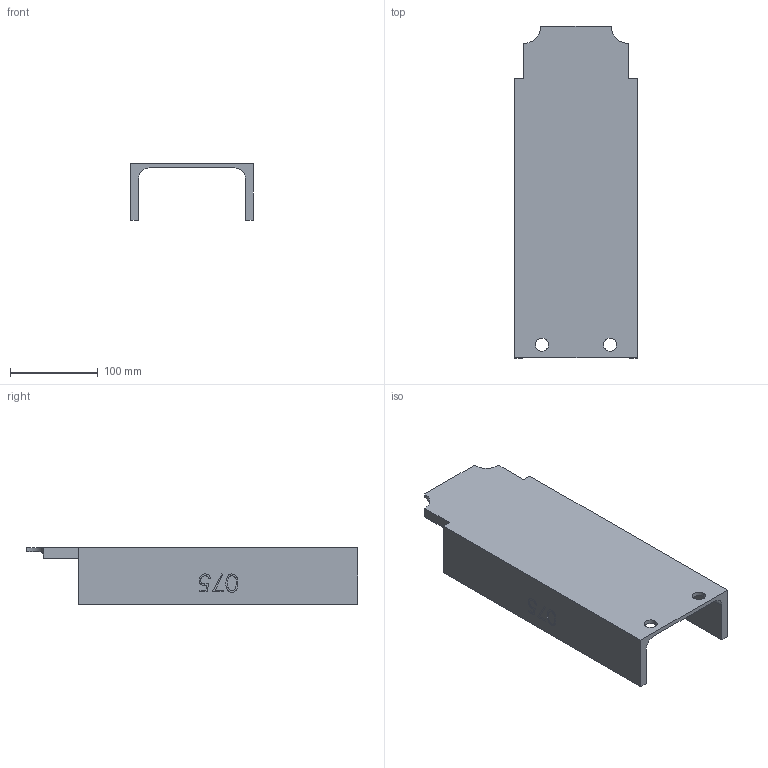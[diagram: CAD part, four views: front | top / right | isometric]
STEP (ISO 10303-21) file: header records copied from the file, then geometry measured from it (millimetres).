
FILE_DESCRIPTION (( 'STEP AP214' ), '1' );
FILE_NAME ('CCJ029-REP.075 - PATTE SUPPORT DEFENSE 1M.STEP', '2025-04-16T13:13:44', ( '' ), ( '' ), 'SwSTEP 2.0', 'SolidWorks 2021', '' );
FILE_SCHEMA (( 'AUTOMOTIVE_DESIGN' ));
Length unit declared in the file: millimetre
Products named in the file (1): CCJ029-REP.075 - PATTE SUPPORT DEFENSE 1M
Bounding box: 140 x 379 x 65 mm (x, y, z)
Volume: 620385.4 mm3; surface area: 183727.2 mm2
Topology: 1 solids, 1 shells, 55 faces, 147 edges, 98 vertices
Faces by surface type: plane 30, bspline 17, cylinder 8
Entity records: 2957 total; most frequent: CARTESIAN_POINT 1642, ORIENTED_EDGE 294, DIRECTION 205, EDGE_CURVE 147, VERTEX_POINT 98, VECTOR 95, LINE 95, EDGE_LOOP 63
